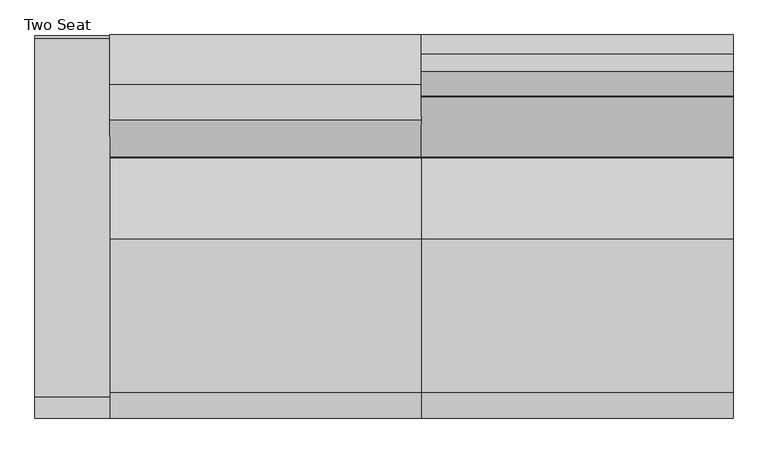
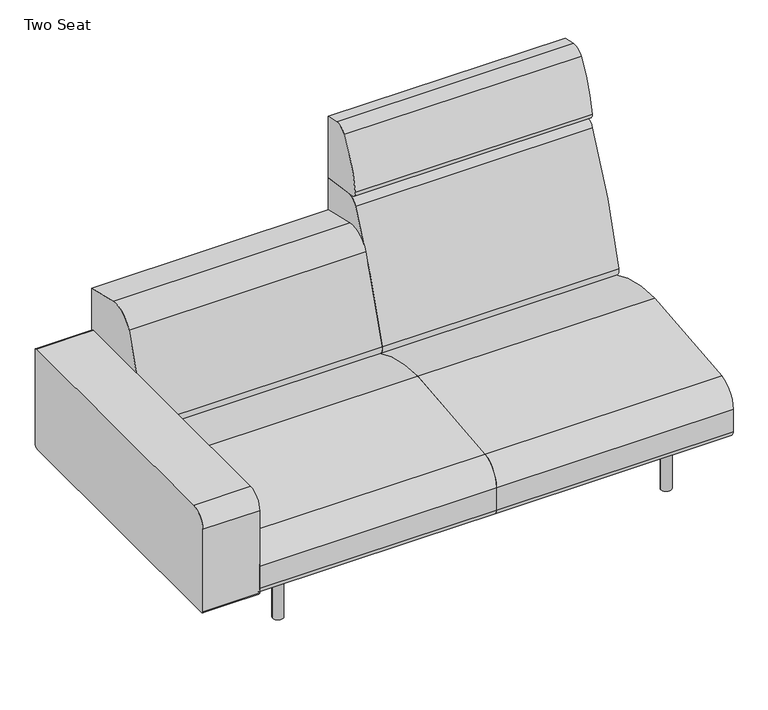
"""IFC4 building model written with IfcOpenShell, lengths in millimetres: furniture geometry, Coalesse_AM_Seating_LoungeChair_Sistema_LegBase_TwoSeat : Two Seat."""

from ifc_helpers import new_model, si_unit, point, frame, frame_2d, origin, origin_with_axes, place, context, project, spatial, polyline, circle_curve, trimmed, segment, composite_curve, outline, extrude, source, transform, mapped, element, save


def two_seat_a7b575e1(model_context):
    return source(origin(), model_context, "Body", "SweptSolid", [
        extrude(outline(composite_curve([segment(trimmed(circle_curve(frame_2d((989.1765227, 335.9943389)), 6.096), [point((995.2725227, 335.9943389))], [point((983.0805227, 335.9943389))], False, "CARTESIAN"), True, "CONTINUOUS"), segment(trimmed(circle_curve(frame_2d((989.1765227, 335.9943389)), 6.096), [point((983.0805227, 335.9943389))], [point((995.2725227, 335.9943389))], False, "CARTESIAN"), True, "CONTINUOUS")], self_intersect=False)), origin_with_axes(), (0.0, 0.0, 1.0), 4.3662291),
        extrude(outline(composite_curve([segment(trimmed(circle_curve(frame_2d((989.1765227, -327.2630889)), 6.096), [point((995.2725227, -327.2630889))], [point((983.0805227, -327.2630889))], False, "CARTESIAN"), True, "CONTINUOUS"), segment(trimmed(circle_curve(frame_2d((989.1765227, -327.2630889)), 6.096), [point((983.0805227, -327.2630889))], [point((995.2725227, -327.2630889))], False, "CARTESIAN"), True, "CONTINUOUS")], self_intersect=False)), origin_with_axes(), (0.0, 0.0, 1.0), 4.3662291),
        extrude(outline(composite_curve([segment(polyline([(157.0399209, 1001.756375), (201.7356243, 1001.756375)]), True, "CONTINUOUS"), segment(trimmed(circle_curve(frame_2d((201.7356243, 998.708375)), 3.048), [point((201.7356243, 1001.756375))], [point((204.7836243, 998.708375))], False, "CARTESIAN"), True, "CONTINUOUS"), segment(polyline([(204.7836243, 998.708375), (204.7836243, 979.366199)]), True, "CONTINUOUS"), segment(trimmed(circle_curve(frame_2d((201.7356243, 979.366199)), 3.048), [point((204.7836243, 979.366199))], [point((201.7356243, 976.318199))], False, "CARTESIAN"), True, "CONTINUOUS"), segment(polyline([(201.7356243, 976.318199), (157.1249936, 976.318199)]), True, "CONTINUOUS"), segment(trimmed(circle_curve(frame_2d((157.1249936, 979.4512718)), 3.1330728), [point((157.1249936, 976.318199))], [point((153.9919209, 979.4512718))], False, "CARTESIAN"), True, "CONTINUOUS"), segment(polyline([(153.9919209, 979.4512718), (153.9919209, 998.708375)]), True, "CONTINUOUS"), segment(trimmed(circle_curve(frame_2d((157.0399209, 998.708375)), 3.048), [point((153.9919209, 998.708375))], [point((157.0399209, 1001.756375))], False, "CARTESIAN"), True, "CONTINUOUS")], self_intersect=False)), frame((0.0, 222.3519802, 0.0), z_axis=(0.0, 1.0, 0.0), x_axis=(0.0, 0.0, 1.0)), (0.0, 0.0, 1.0), 92.6273161),
        extrude(outline(composite_curve([segment(polyline([(157.0399209, 1001.756375), (201.7356243, 1001.756375)]), True, "CONTINUOUS"), segment(trimmed(circle_curve(frame_2d((201.7356243, 998.708375)), 3.048), [point((201.7356243, 1001.756375))], [point((204.7836243, 998.708375))], False, "CARTESIAN"), True, "CONTINUOUS"), segment(polyline([(204.7836243, 998.708375), (204.7836243, 979.366199)]), True, "CONTINUOUS"), segment(trimmed(circle_curve(frame_2d((201.7356243, 979.366199)), 3.048), [point((204.7836243, 979.366199))], [point((201.7356243, 976.318199))], False, "CARTESIAN"), True, "CONTINUOUS"), segment(polyline([(201.7356243, 976.318199), (157.1249936, 976.318199)]), True, "CONTINUOUS"), segment(trimmed(circle_curve(frame_2d((157.1249936, 979.4512718)), 3.1330728), [point((157.1249936, 976.318199))], [point((153.9919209, 979.4512718))], False, "CARTESIAN"), True, "CONTINUOUS"), segment(polyline([(153.9919209, 979.4512718), (153.9919209, 998.708375)]), True, "CONTINUOUS"), segment(trimmed(circle_curve(frame_2d((157.0399209, 998.708375)), 3.048), [point((153.9919209, 998.708375))], [point((157.0399209, 1001.756375))], False, "CARTESIAN"), True, "CONTINUOUS")], self_intersect=False)), frame((0.0, -314.9792963, 0.0), z_axis=(0.0, 1.0, 0.0), x_axis=(0.0, 0.0, 1.0)), (0.0, 0.0, 1.0), 92.6273161),
        extrude(outline(composite_curve([segment(trimmed(circle_curve(frame_2d((176.3356606, 966.5259944)), 3.048), [point((179.3836606, 966.5259944))], [point((176.3356606, 963.4779944))], False, "CARTESIAN"), True, "CONTINUOUS"), segment(polyline([(176.3356606, 963.4779944), (157.0399209, 963.4779944)]), True, "CONTINUOUS"), segment(trimmed(circle_curve(frame_2d((157.0399209, 966.5259944)), 3.048), [point((157.0399209, 963.4779944))], [point((153.9919209, 966.5259944))], False, "CARTESIAN"), True, "CONTINUOUS"), segment(polyline([(153.9919209, 966.5259944), (153.9919209, 1011.2135501)]), True, "CONTINUOUS"), segment(trimmed(circle_curve(frame_2d((157.056462, 1011.2135501)), 3.0645412), [point((153.9919209, 1011.2135501))], [point((157.056462, 1014.2780913))], False, "CARTESIAN"), True, "CONTINUOUS"), segment(polyline([(157.056462, 1014.2780913), (176.3356606, 1014.2780913)]), True, "CONTINUOUS"), segment(trimmed(circle_curve(frame_2d((176.3356606, 1011.2300913)), 3.048), [point((176.3356606, 1014.2780913))], [point((179.3836606, 1011.2300913))], False, "CARTESIAN"), True, "CONTINUOUS"), segment(polyline([(179.3836606, 1011.2300913), (179.3836606, 966.5259944)]), True, "CONTINUOUS")], self_intersect=False)), frame((0.0, -222.3519802, 0.0), z_axis=(0.0, 1.0, 0.0), x_axis=(0.0, 0.0, 1.0)), (0.0, 0.0, 1.0), 444.7039604),
        extrude(outline(composite_curve([segment(trimmed(circle_curve(frame_2d((989.1765227, 332.3095741)), 16.51), [point((1005.6865227, 332.3095741))], [point((972.6665227, 332.3095741))], False, "CARTESIAN"), True, "CONTINUOUS"), segment(trimmed(circle_curve(frame_2d((989.1765227, 332.3095741)), 16.51), [point((972.6665227, 332.3095741))], [point((1005.6865227, 332.3095741))], False, "CARTESIAN"), True, "CONTINUOUS")], self_intersect=False)), frame((0.0, 0.0, 4.3662291), z_axis=(0.0, 0.0, 1.0), x_axis=(1.0, 0.0, 0.0)), (0.0, 0.0, 1.0), 200.1037709),
        extrude(outline(composite_curve([segment(trimmed(circle_curve(frame_2d((988.7796477, -327.5470741)), 16.51), [point((1005.2896477, -327.5470741))], [point((972.2696477, -327.5470741))], False, "CARTESIAN"), True, "CONTINUOUS"), segment(trimmed(circle_curve(frame_2d((988.7796477, -327.5470741)), 16.51), [point((972.2696477, -327.5470741))], [point((1005.2896477, -327.5470741))], False, "CARTESIAN"), True, "CONTINUOUS")], self_intersect=False)), frame((0.0, 0.0, 4.3662291), z_axis=(0.0, 0.0, 1.0), x_axis=(1.0, 0.0, 0.0)), (0.0, 0.0, 1.0), 200.1037709),
        extrude(outline(composite_curve([segment(polyline([(-461.2704381, 212.4103341), (-461.2704381, 487.0244726)]), True, "CONTINUOUS"), segment(trimmed(circle_curve(frame_2d((-410.4704381, 487.0244726)), 50.8), [point((-461.2704381, 487.0244726))], [point((-410.4704381, 537.8244726))], False, "CARTESIAN"), True, "CONTINUOUS"), segment(polyline([(-410.4704381, 537.8244726), (450.1139321, 537.8244726)]), True, "CONTINUOUS"), segment(trimmed(circle_curve(frame_2d((450.1139321, 530.2044726)), 7.62), [point((450.1139321, 537.8244726))], [point((457.7339321, 530.2044726))], False, "CARTESIAN"), True, "CONTINUOUS"), segment(polyline([(457.7339321, 530.2044726), (457.7339321, 217.4903341)]), True, "CONTINUOUS"), segment(trimmed(circle_curve(frame_2d((445.0339321, 217.4903341)), 12.7), [point((457.7339321, 217.4903341))], [point((445.0339321, 204.7903341))], False, "CARTESIAN"), True, "CONTINUOUS"), segment(polyline([(445.0339321, 204.7903341), (-453.6504381, 204.7903341)]), True, "CONTINUOUS"), segment(trimmed(circle_curve(frame_2d((-453.6504381, 212.4103341)), 7.62), [point((-453.6504381, 204.7903341))], [point((-461.2704381, 212.4103341))], False, "CARTESIAN"), True, "CONTINUOUS")], self_intersect=False)), frame((-554.3698424, 0.0, 0.0), z_axis=(1.0, 0.0, 0.0), x_axis=(0.0, 1.0, 0.0)), (0.0, 0.0, 1.0), 179.5663651),
        extrude(outline(composite_curve([segment(polyline([(459.4795619, 673.6041325), (459.4795619, 228.1929806)]), True, "CONTINUOUS"), segment(trimmed(circle_curve(frame_2d((191.495971, 228.1929806)), 267.983591), [point((459.4795619, 228.1929806))], [point((458.9860775, 211.937276))], False, "CARTESIAN"), True, "CONTINUOUS"), segment(polyline([(458.9860775, 211.937276), (177.4990556, 364.1028799)]), True, "CONTINUOUS"), segment(trimmed(circle_curve(frame_2d((189.5778307, 386.4470781)), 25.4), [point((177.4990556, 364.1028799))], [point((164.9600055, 392.7018911))], False, "CARTESIAN"), True, "CONTINUOUS"), segment(trimmed(circle_curve(frame_2d((1918.112812, -52.7331923)), 1808.8552115), [point((164.9600055, 392.7018911))], [point((254.1018253, 656.5090883))], False, "CARTESIAN"), True, "CONTINUOUS"), segment(trimmed(circle_curve(frame_2d((324.2001043, 626.6314831)), 76.2), [point((254.1018253, 656.5090883))], [point((341.3413746, 700.8784821))], False, "CARTESIAN"), True, "CONTINUOUS"), segment(polyline([(341.3413746, 700.8784821), (459.4795619, 673.6041325)]), True, "CONTINUOUS")], self_intersect=False)), frame((-374.8034773, 0.0, 0.0), z_axis=(1.0, 0.0, 0.0), x_axis=(0.0, 1.0, 0.0)), (0.0, 0.0, 1.0), 749.3),
        extrude(outline(composite_curve([segment(trimmed(circle_curve(frame_2d((-438.9184381, 226.822)), 22.352), [point((-438.9184381, 204.47))], [point((-461.2704381, 226.822))], False, "CARTESIAN"), True, "CONTINUOUS"), segment(polyline([(-461.2704381, 226.822), (-461.2704381, 301.4421993)]), True, "CONTINUOUS"), segment(trimmed(circle_curve(frame_2d((-385.0704381, 301.4421993)), 76.2), [point((-461.2704381, 301.4421993))], [point((-398.9277015, 376.3716077))], False, "CARTESIAN"), True, "CONTINUOUS"), segment(trimmed(circle_curve(frame_2d((2.2103559, -1792.6740646)), 2205.8265729), [point((-398.9277015, 376.3716077))], [point((-31.1968175, 412.8995185))], False, "CARTESIAN"), True, "CONTINUOUS"), segment(trimmed(circle_curve(frame_2d((-24.5128424, -28.3829182)), 441.333054), [point((-31.1968175, 412.8995185))], [point((184.5757008, 360.2774035))], False, "CARTESIAN"), True, "CONTINUOUS"), segment(polyline([(184.5757008, 360.2774035), (458.9860775, 211.937276)]), True, "CONTINUOUS"), segment(trimmed(circle_curve(frame_2d((442.3266309, 226.7871991)), 22.3171991), [point((458.9860775, 211.937276))], [point((442.3266309, 204.47))], False, "CARTESIAN"), True, "CONTINUOUS"), segment(polyline([(442.3266309, 204.47), (-438.9184381, 204.47)]), True, "CONTINUOUS")], self_intersect=False)), frame((-374.8034773, 0.0, 0.0), z_axis=(1.0, 0.0, 0.0), x_axis=(0.0, 1.0, 0.0)), (0.0, 0.0, 1.0), 749.3),
        extrude(outline(composite_curve([segment(polyline([(459.4795619, 985.4592709), (459.4795619, 780.845009), (327.9700683, 799.327463)]), True, "CONTINUOUS"), segment(trimmed(circle_curve(frame_2d((330.6213159, 818.1920697)), 19.05), [point((327.9700683, 799.327463))], [point((311.7521971, 820.8110119))], False, "CARTESIAN"), True, "CONTINUOUS"), segment(trimmed(circle_curve(frame_2d((679.5815991, 769.7580741)), 371.3554516), [point((311.7521971, 820.8110119))], [point((372.1246101, 978.0249014))], False, "CARTESIAN"), True, "CONTINUOUS"), segment(trimmed(circle_curve(frame_2d((405.8944569, 955.1497055)), 40.7881985), [point((372.1246101, 978.0249014))], [point((414.3748002, 995.046584))], False, "CARTESIAN"), True, "CONTINUOUS"), segment(polyline([(414.3748002, 995.046584), (459.4795619, 985.4592709)]), True, "CONTINUOUS")], self_intersect=False)), frame((374.4965227, 0.0, 0.0), z_axis=(1.0, 0.0, 0.0), x_axis=(0.0, 1.0, 0.0)), (0.0, 0.0, 1.0), 749.3),
        extrude(outline(composite_curve([segment(polyline([(459.4795619, 780.845009), (459.4795619, 228.1929806)]), True, "CONTINUOUS"), segment(trimmed(circle_curve(frame_2d((191.495971, 228.1929806)), 267.983591), [point((459.4795619, 228.1929806))], [point((458.9860775, 211.937276))], False, "CARTESIAN"), True, "CONTINUOUS"), segment(polyline([(458.9860775, 211.937276), (177.4990556, 364.1028799)]), True, "CONTINUOUS"), segment(trimmed(circle_curve(frame_2d((189.5778307, 386.4470781)), 25.4), [point((177.4990556, 364.1028799))], [point((164.9600055, 392.7018911))], False, "CARTESIAN"), True, "CONTINUOUS"), segment(trimmed(circle_curve(frame_2d((1918.112812, -52.7331923)), 1808.8552115), [point((164.9600055, 392.7018911))], [point((310.2880264, 776.0349508))], False, "CARTESIAN"), True, "CONTINUOUS"), segment(trimmed(circle_curve(frame_2d((344.1537133, 758.5785695)), 38.1), [point((310.2880264, 776.0349508))], [point((349.4562085, 796.3077829))], False, "CARTESIAN"), True, "CONTINUOUS"), segment(polyline([(349.4562085, 796.3077829), (459.4795619, 780.845009)]), True, "CONTINUOUS")], self_intersect=False)), frame((374.4965227, 0.0, 0.0), z_axis=(1.0, 0.0, 0.0), x_axis=(0.0, 1.0, 0.0)), (0.0, 0.0, 1.0), 749.3),
        extrude(outline(composite_curve([segment(trimmed(circle_curve(frame_2d((-438.9184381, 226.822)), 22.352), [point((-438.9184381, 204.47))], [point((-461.2704381, 226.822))], False, "CARTESIAN"), True, "CONTINUOUS"), segment(polyline([(-461.2704381, 226.822), (-461.2704381, 301.4421993)]), True, "CONTINUOUS"), segment(trimmed(circle_curve(frame_2d((-385.0704381, 301.4421993)), 76.2), [point((-461.2704381, 301.4421993))], [point((-398.9277015, 376.3716077))], False, "CARTESIAN"), True, "CONTINUOUS"), segment(trimmed(circle_curve(frame_2d((2.2103559, -1792.6740646)), 2205.8265729), [point((-398.9277015, 376.3716077))], [point((-31.1968175, 412.8995185))], False, "CARTESIAN"), True, "CONTINUOUS"), segment(trimmed(circle_curve(frame_2d((-24.5128424, -28.3829182)), 441.333054), [point((-31.1968175, 412.8995185))], [point((184.5757008, 360.2774035))], False, "CARTESIAN"), True, "CONTINUOUS"), segment(polyline([(184.5757008, 360.2774035), (458.9860775, 211.937276)]), True, "CONTINUOUS"), segment(trimmed(circle_curve(frame_2d((442.3266309, 226.7871991)), 22.3171991), [point((458.9860775, 211.937276))], [point((442.3266309, 204.47))], False, "CARTESIAN"), True, "CONTINUOUS"), segment(polyline([(442.3266309, 204.47), (-438.9184381, 204.47)]), True, "CONTINUOUS")], self_intersect=False)), frame((374.4965227, 0.0, 0.0), z_axis=(1.0, 0.0, 0.0), x_axis=(0.0, 1.0, 0.0)), (0.0, 0.0, 1.0), 749.3),
        extrude(outline(composite_curve([segment(trimmed(circle_curve(frame_2d((-240.1834773, 335.9943389)), 6.096), [point((-246.2794773, 335.9943389))], [point((-234.0874773, 335.9943389))], False, "CARTESIAN"), True, "CONTINUOUS"), segment(trimmed(circle_curve(frame_2d((-240.1834773, 335.9943389)), 6.096), [point((-234.0874773, 335.9943389))], [point((-246.2794773, 335.9943389))], False, "CARTESIAN"), True, "CONTINUOUS")], self_intersect=False)), origin_with_axes(), (0.0, 0.0, 1.0), 4.3662291),
        extrude(outline(composite_curve([segment(trimmed(circle_curve(frame_2d((-240.1834773, -327.2630889)), 6.096), [point((-246.2794773, -327.2630889))], [point((-234.0874773, -327.2630889))], False, "CARTESIAN"), True, "CONTINUOUS"), segment(trimmed(circle_curve(frame_2d((-240.1834773, -327.2630889)), 6.096), [point((-234.0874773, -327.2630889))], [point((-246.2794773, -327.2630889))], False, "CARTESIAN"), True, "CONTINUOUS")], self_intersect=False)), origin_with_axes(), (0.0, 0.0, 1.0), 4.3662291),
        extrude(outline(composite_curve([segment(trimmed(circle_curve(frame_2d((157.0399209, -249.7153296)), 3.048), [point((157.0399209, -252.7633296))], [point((153.9919209, -249.7153296))], False, "CARTESIAN"), True, "CONTINUOUS"), segment(polyline([(153.9919209, -249.7153296), (153.9919209, -230.4582264)]), True, "CONTINUOUS"), segment(trimmed(circle_curve(frame_2d((157.1249936, -230.4582264)), 3.1330728), [point((153.9919209, -230.4582264))], [point((157.1249936, -227.3251537))], False, "CARTESIAN"), True, "CONTINUOUS"), segment(polyline([(157.1249936, -227.3251537), (201.7356243, -227.3251537)]), True, "CONTINUOUS"), segment(trimmed(circle_curve(frame_2d((201.7356243, -230.3731537)), 3.048), [point((201.7356243, -227.3251537))], [point((204.7836243, -230.3731537))], False, "CARTESIAN"), True, "CONTINUOUS"), segment(polyline([(204.7836243, -230.3731537), (204.7836243, -249.7153296)]), True, "CONTINUOUS"), segment(trimmed(circle_curve(frame_2d((201.7356243, -249.7153296)), 3.048), [point((204.7836243, -249.7153296))], [point((201.7356243, -252.7633296))], False, "CARTESIAN"), True, "CONTINUOUS"), segment(polyline([(201.7356243, -252.7633296), (157.0399209, -252.7633296)]), True, "CONTINUOUS")], self_intersect=False)), frame((0.0, 222.3519802, 0.0), z_axis=(0.0, 1.0, 0.0), x_axis=(0.0, 0.0, 1.0)), (0.0, 0.0, 1.0), 92.6273161),
        extrude(outline(composite_curve([segment(trimmed(circle_curve(frame_2d((157.0399209, -249.7153296)), 3.048), [point((157.0399209, -252.7633296))], [point((153.9919209, -249.7153296))], False, "CARTESIAN"), True, "CONTINUOUS"), segment(polyline([(153.9919209, -249.7153296), (153.9919209, -230.4582264)]), True, "CONTINUOUS"), segment(trimmed(circle_curve(frame_2d((157.1249936, -230.4582264)), 3.1330728), [point((153.9919209, -230.4582264))], [point((157.1249936, -227.3251537))], False, "CARTESIAN"), True, "CONTINUOUS"), segment(polyline([(157.1249936, -227.3251537), (201.7356243, -227.3251537)]), True, "CONTINUOUS"), segment(trimmed(circle_curve(frame_2d((201.7356243, -230.3731537)), 3.048), [point((201.7356243, -227.3251537))], [point((204.7836243, -230.3731537))], False, "CARTESIAN"), True, "CONTINUOUS"), segment(polyline([(204.7836243, -230.3731537), (204.7836243, -249.7153296)]), True, "CONTINUOUS"), segment(trimmed(circle_curve(frame_2d((201.7356243, -249.7153296)), 3.048), [point((204.7836243, -249.7153296))], [point((201.7356243, -252.7633296))], False, "CARTESIAN"), True, "CONTINUOUS"), segment(polyline([(201.7356243, -252.7633296), (157.0399209, -252.7633296)]), True, "CONTINUOUS")], self_intersect=False)), frame((0.0, -314.9792963, 0.0), z_axis=(0.0, 1.0, 0.0), x_axis=(0.0, 0.0, 1.0)), (0.0, 0.0, 1.0), 92.6273161),
        extrude(outline(composite_curve([segment(polyline([(179.3836606, -217.532949), (179.3836606, -262.2370459)]), True, "CONTINUOUS"), segment(trimmed(circle_curve(frame_2d((176.3356606, -262.2370459)), 3.048), [point((179.3836606, -262.2370459))], [point((176.3356606, -265.2850459))], False, "CARTESIAN"), True, "CONTINUOUS"), segment(polyline([(176.3356606, -265.2850459), (157.056462, -265.2850459)]), True, "CONTINUOUS"), segment(trimmed(circle_curve(frame_2d((157.056462, -262.2205047)), 3.0645412), [point((157.056462, -265.2850459))], [point((153.9919209, -262.2205047))], False, "CARTESIAN"), True, "CONTINUOUS"), segment(polyline([(153.9919209, -262.2205047), (153.9919209, -217.532949)]), True, "CONTINUOUS"), segment(trimmed(circle_curve(frame_2d((157.0399209, -217.532949)), 3.048), [point((153.9919209, -217.532949))], [point((157.0399209, -214.484949))], False, "CARTESIAN"), True, "CONTINUOUS"), segment(polyline([(157.0399209, -214.484949), (176.3356606, -214.484949)]), True, "CONTINUOUS"), segment(trimmed(circle_curve(frame_2d((176.3356606, -217.532949)), 3.048), [point((176.3356606, -214.484949))], [point((179.3836606, -217.532949))], False, "CARTESIAN"), True, "CONTINUOUS")], self_intersect=False)), frame((0.0, -222.3519802, 0.0), z_axis=(0.0, 1.0, 0.0), x_axis=(0.0, 0.0, 1.0)), (0.0, 0.0, 1.0), 444.7039604),
        extrude(outline(composite_curve([segment(trimmed(circle_curve(frame_2d((-240.1834773, 332.3095741)), 16.51), [point((-256.6934773, 332.3095741))], [point((-223.6734773, 332.3095741))], False, "CARTESIAN"), True, "CONTINUOUS"), segment(trimmed(circle_curve(frame_2d((-240.1834773, 332.3095741)), 16.51), [point((-223.6734773, 332.3095741))], [point((-256.6934773, 332.3095741))], False, "CARTESIAN"), True, "CONTINUOUS")], self_intersect=False)), frame((0.0, 0.0, 4.3662291), z_axis=(0.0, 0.0, 1.0), x_axis=(1.0, 0.0, 0.0)), (0.0, 0.0, 1.0), 200.1037709),
        extrude(outline(composite_curve([segment(trimmed(circle_curve(frame_2d((-239.7866023, -327.5470741)), 16.51), [point((-256.2966023, -327.5470741))], [point((-223.2766023, -327.5470741))], False, "CARTESIAN"), True, "CONTINUOUS"), segment(trimmed(circle_curve(frame_2d((-239.7866023, -327.5470741)), 16.51), [point((-223.2766023, -327.5470741))], [point((-256.2966023, -327.5470741))], False, "CARTESIAN"), True, "CONTINUOUS")], self_intersect=False)), frame((0.0, 0.0, 4.3662291), z_axis=(0.0, 0.0, 1.0), x_axis=(1.0, 0.0, 0.0)), (0.0, 0.0, 1.0), 200.1037709),
    ])


if __name__ == "__main__":
    model = new_model("IFC4")
    model_context = context("Model", 3, world=origin())
    ifc_project = project(units=[si_unit("LENGTHUNIT", "METRE", prefix="MILLI")], contexts=[model_context])
    site = spatial("IfcSite", under=ifc_project)
    building = spatial("IfcBuilding", under=site)
    placement = place(None, origin())
    two_seat_shape = two_seat_a7b575e1(model_context)
    element("IfcFurniture", 1, ObjectType="Coalesse_AM_Seating_LoungeChair_Sistema_LegBase_TwoSeat : Two Seat", at=placement, inside=building, context=model_context, shape_type="MappedRepresentation", body=[
        mapped(two_seat_shape, transform((0.0, 0.0, 0.0), x_axis=(1.0, 0.0, 0.0), y_axis=(0.0, 1.0, 0.0), z_axis=(0.0, 0.0, 1.0))),
    ])
    save(model, "model.ifc")
